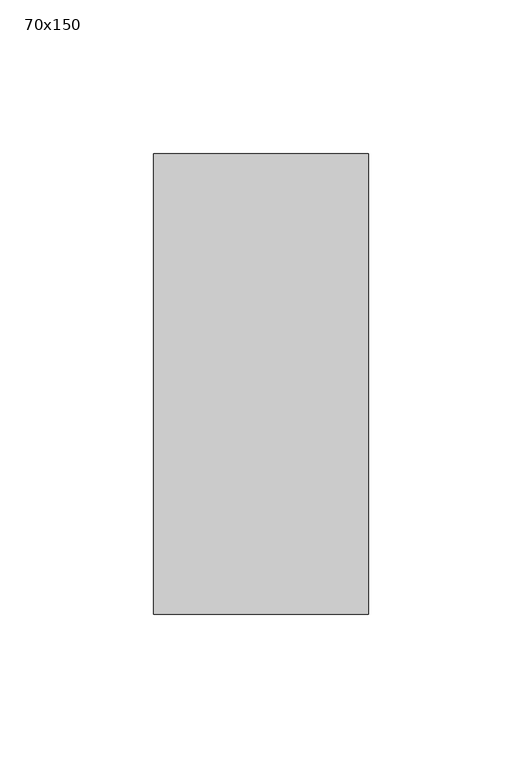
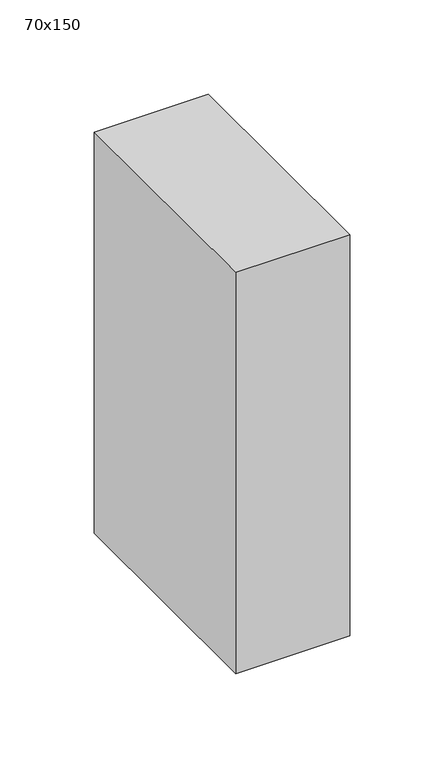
"""IFC4 building model written with IfcOpenShell, lengths in millimetres: member geometry, 長方形のマリオン : 70x150."""

import ifcopenshell
import ifcopenshell.guid

model = None  # the IFC model being written
_history = None  # IfcOwnerHistory: only IFC2X3 demands one
_inside = {}  # id of a spatial element -> (the spatial element, [elements in it])
_under = {}  # id of a project, library or spatial element -> (it, [spatial elements below it])
_declared = {}  # id of a project -> (the project, [libraries it declares])
_typed = {}  # id of a type object -> (the type object, [elements of that type])
_made_of = {}  # id of a material, layer set ... -> (it, [elements and type objects made of it])


def new_model(schema):
    """Start an empty IFC model of exactly this schema.

    Asked for "IFC4X3", IfcOpenShell would pick the latest addendum, in which some entities
    have other attributes; the version numbers below select the first issue.
    IFC2X3 requires an IfcOwnerHistory on every rooted entity: one is made here for all.
    """
    global model, _history
    if schema == "IFC4X3":
        model = ifcopenshell.file(schema_version=(4, 3, 0, 0))
    else:
        model = ifcopenshell.file(schema=schema)
    _inside.clear()
    _under.clear()
    _declared.clear()
    _typed.clear()
    _made_of.clear()
    _history = None
    if model.schema == "IFC2X3":
        org = make("IfcOrganization", Name="unknown")
        user = make(
            "IfcPersonAndOrganization",
            ThePerson=make("IfcPerson", FamilyName="unknown"),
            TheOrganization=org,
        )
        app = make(
            "IfcApplication",
            ApplicationDeveloper=org,
            Version="unknown",
            ApplicationFullName="unknown",
            ApplicationIdentifier="unknown",
        )
        _history = make(
            "IfcOwnerHistory",
            OwningUser=user,
            OwningApplication=app,
            ChangeAction="ADDED",
            CreationDate=0,
        )
    return model


def make(cls, **values):
    """One entity of the class cls with the attributes given. An attribute that is None is left unset."""
    return model.create_entity(
        cls, **{name: value for name, value in values.items() if value is not None}
    )


def rooted(cls, **values):
    """An entity with a GlobalId (a new one), such as an element, a storey or a relation."""
    return make(cls, GlobalId=ifcopenshell.guid.new(), OwnerHistory=_history, **values)


def si_unit(unit_type, name, prefix=None):
    """IfcSIUnit, for example si_unit("LENGTHUNIT", "METRE", prefix="MILLI")."""
    return make("IfcSIUnit", UnitType=unit_type, Prefix=prefix, Name=name)


def assignment(units):
    """IfcUnitAssignment: the units of a project."""
    return None if units is None else make("IfcUnitAssignment", Units=units)


def point(xyz):
    """IfcCartesianPoint."""
    return None if xyz is None else make("IfcCartesianPoint", Coordinates=xyz)


def direction(xyz):
    """IfcDirection."""
    return None if xyz is None else make("IfcDirection", DirectionRatios=xyz)


def frame(location, z_axis=None, x_axis=None):
    """IfcAxis2Placement3D, a coordinate frame: its origin and axes. An axis left out is left unset."""
    return make(
        "IfcAxis2Placement3D",
        Location=point(location),
        Axis=direction(z_axis),
        RefDirection=direction(x_axis),
    )


def origin():
    """The frame at (0, 0, 0) with its axes left unset."""
    return frame((0.0, 0.0, 0.0))


def place(relative_to, where):
    """IfcLocalPlacement: puts the frame where relative to a parent placement (None: the world)."""
    return make(
        "IfcLocalPlacement", PlacementRelTo=relative_to, RelativePlacement=where
    )


def context(
    kind, dimensions, precision=None, world=None, true_north=None, identifier=None
):
    """IfcGeometricRepresentationContext, for example the 3D "Model" context."""
    return make(
        "IfcGeometricRepresentationContext",
        ContextIdentifier=identifier,
        ContextType=kind,
        CoordinateSpaceDimension=dimensions,
        Precision=precision,
        WorldCoordinateSystem=world,
        TrueNorth=true_north,
    )


def project(units=None, contexts=None):
    """IfcProject with its units and contexts."""
    return rooted(
        "IfcProject",
        Name="project",
        RepresentationContexts=contexts,
        UnitsInContext=assignment(units),
    )


def spatial(cls, under=None, at=None, **own):
    """A site, building, storey or space (cls), placed at a placement, below another one or the project."""
    s = rooted(cls, ObjectPlacement=at, **own)
    if under is not None:
        _under.setdefault(under.id(), (under, []))[1].append(s)
    return s


def polyline(points):
    """IfcPolyline through the points."""
    return make("IfcPolyline", Points=[point(p) for p in points])


def outline(outer, holes=None, kind="AREA"):
    """IfcArbitraryClosedProfileDef: a profile drawn as a closed curve; with holes, ...WithVoids."""
    if holes is None:
        return make("IfcArbitraryClosedProfileDef", ProfileType=kind, OuterCurve=outer)
    return make(
        "IfcArbitraryProfileDefWithVoids",
        ProfileType=kind,
        OuterCurve=outer,
        InnerCurves=holes,
    )


def extrude(swept, where, along, depth):
    """IfcExtrudedAreaSolid: the profile swept, set in the frame where, extruded along a direction by depth."""
    return make(
        "IfcExtrudedAreaSolid",
        SweptArea=swept,
        Position=where,
        ExtrudedDirection=direction(along),
        Depth=depth,
    )


def shape(context_of_items, identifier, shape_type, items):
    """IfcShapeRepresentation: the items that make up one representation, for example the "Body"."""
    return make(
        "IfcShapeRepresentation",
        ContextOfItems=context_of_items,
        RepresentationIdentifier=identifier,
        RepresentationType=shape_type,
        Items=items,
    )


def source(mapping_origin, context_of_items, identifier, shape_type, items):
    """IfcRepresentationMap: a shape defined once, which mapped items show again and again."""
    return make(
        "IfcRepresentationMap",
        MappingOrigin=mapping_origin,
        MappedRepresentation=shape(context_of_items, identifier, shape_type, items),
    )


def transform(
    local_origin,
    x_axis=None,
    y_axis=None,
    z_axis=None,
    scale=None,
    scale2=None,
    scale3=None,
    uniform=True,
):
    """IfcCartesianTransformationOperator3D, or its non-uniform kind. x_axis, y_axis, z_axis: its Axis1, 2, 3."""
    if uniform:
        return make(
            "IfcCartesianTransformationOperator3D",
            Axis1=direction(x_axis),
            Axis2=direction(y_axis),
            LocalOrigin=point(local_origin),
            Scale=scale,
            Axis3=direction(z_axis),
        )
    return make(
        "IfcCartesianTransformationOperator3DnonUniform",
        Axis1=direction(x_axis),
        Axis2=direction(y_axis),
        LocalOrigin=point(local_origin),
        Scale=scale,
        Axis3=direction(z_axis),
        Scale2=scale2,
        Scale3=scale3,
    )


def mapped(mapping_source, mapping_target):
    """IfcMappedItem: shows the shape of a source again, moved by a transform."""
    return make(
        "IfcMappedItem", MappingSource=mapping_source, MappingTarget=mapping_target
    )


def made_of(thing, what):
    """Note that an element or type object is made of a material, layer set ...; save() writes the relation."""
    if what is not None:
        _made_of.setdefault(what.id(), (what, []))[1].append(thing)
    return thing


def element(
    cls,
    number,
    at=None,
    inside=None,
    cuts=None,
    type_object=None,
    material=None,
    context=None,
    identifier="Body",
    shape_type=None,
    held_by="IfcProductDefinitionShape",
    body=None,
    shapes=None,
    **own,
):
    """One element of the class cls, such as IfcWall. Its Tag is "e" and its number.

    at: its placement. inside: the storey or other place that contains it. cuts: it is an
    opening in that element (IfcRelVoidsElement). A single representation is given by context,
    identifier, shape_type and body (its items); several are given by shapes. held_by: the class
    of the entity that holds the representations. save() writes the other relations.
    """
    e = rooted(cls, Tag="e%d" % number, ObjectPlacement=at, **own)
    if body is not None:
        shapes = [shape(context, identifier, shape_type, body)]
    if shapes is not None:
        e.Representation = make(held_by, Representations=shapes)
    if inside is not None:
        _inside.setdefault(inside.id(), (inside, []))[1].append(e)
    if cuts is not None:
        rooted(
            "IfcRelVoidsElement", RelatingBuildingElement=cuts, RelatedOpeningElement=e
        )
    if type_object is not None:
        _typed.setdefault(type_object.id(), (type_object, []))[1].append(e)
    return made_of(e, material)


def aggregate(whole, parts):
    """IfcRelAggregates: a whole, such as a stair, and the parts it consists of."""
    return rooted("IfcRelAggregates", RelatingObject=whole, RelatedObjects=parts)


def save(model, path):
    """Write the relations noted so far, then the file.

    IfcRelAggregates (storeys below a building ...), IfcRelContainedInSpatialStructure (elements
    in a storey), IfcRelDefinesByType, IfcRelAssociatesMaterial and IfcRelDeclares: one each for
    every whole, place, type object, material and project.
    """
    for whole, parts in _under.values():
        aggregate(whole, parts)
    for where, things in _inside.values():
        rooted(
            "IfcRelContainedInSpatialStructure",
            RelatedElements=things,
            RelatingStructure=where,
        )
    for kind, things in _typed.values():
        rooted("IfcRelDefinesByType", RelatedObjects=things, RelatingType=kind)
    for what, things in _made_of.values():
        rooted("IfcRelAssociatesMaterial", RelatedObjects=things, RelatingMaterial=what)
    for by, libraries in _declared.values():
        rooted("IfcRelDeclares", RelatingContext=by, RelatedDefinitions=libraries)
    model.write(path)


def member_70x150_da24903b(model_context):
    return source(origin(), model_context, "Body", "SweptSolid", [
        extrude(outline(polyline([(35.0, 75.0), (35.0, -75.0), (-35.0, -75.0), (-35.0, 75.0), (35.0, 75.0)])), frame((0.0, 0.0, -260.0), z_axis=(0.0, 0.0, 1.0), x_axis=(1.0, 0.0, 0.0)), (0.0, 0.0, 1.0), 260.0),
    ])


if __name__ == "__main__":
    model = new_model("IFC4")
    model_context = context("Model", 3, world=origin())
    ifc_project = project(units=[si_unit("LENGTHUNIT", "METRE", prefix="MILLI")], contexts=[model_context])
    site = spatial("IfcSite", under=ifc_project)
    building = spatial("IfcBuilding", under=site)
    placement = place(None, origin())
    member_70x150_shape = member_70x150_da24903b(model_context)
    element("IfcMember", 1, ObjectType="長方形のマリオン : 70x150", at=placement, inside=building, context=model_context, shape_type="MappedRepresentation", body=[
        mapped(member_70x150_shape, transform((0.0, 0.0, 0.0), x_axis=(1.0, 0.0, 0.0), y_axis=(0.0, 1.0, 0.0), z_axis=(0.0, 0.0, 1.0))),
    ])
    save(model, "model.ifc")
